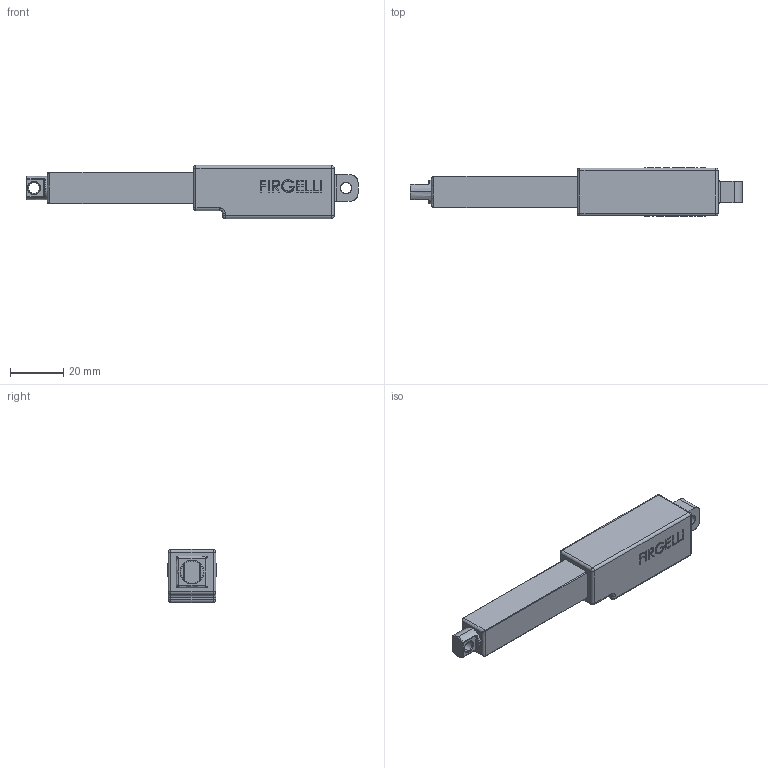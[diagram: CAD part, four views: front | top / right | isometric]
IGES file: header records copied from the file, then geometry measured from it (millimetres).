
Start section: SolidWorks IGES file using analytic representation for surfaces
Global section: file name: C:\Users\Ant\Documents\Aeronavics\Retracts MkII\Firgelli L16 50mm Assembly.IGS; native system: SolidWorks 2014; preprocessor: SolidWorks 2014; author: Ant; date: 140710.090312; units: millimetre
Bounding box: 125 x 18.2 x 20 mm (x, y, z)
Surface area: 11885.1 mm2 (no closed solid volume)
Topology: 0 solids, 0 shells, 266 faces, 2335 edges, 2321 vertices
Faces by surface type: bspline 204, revolution 62
